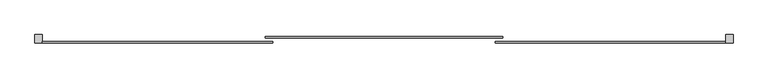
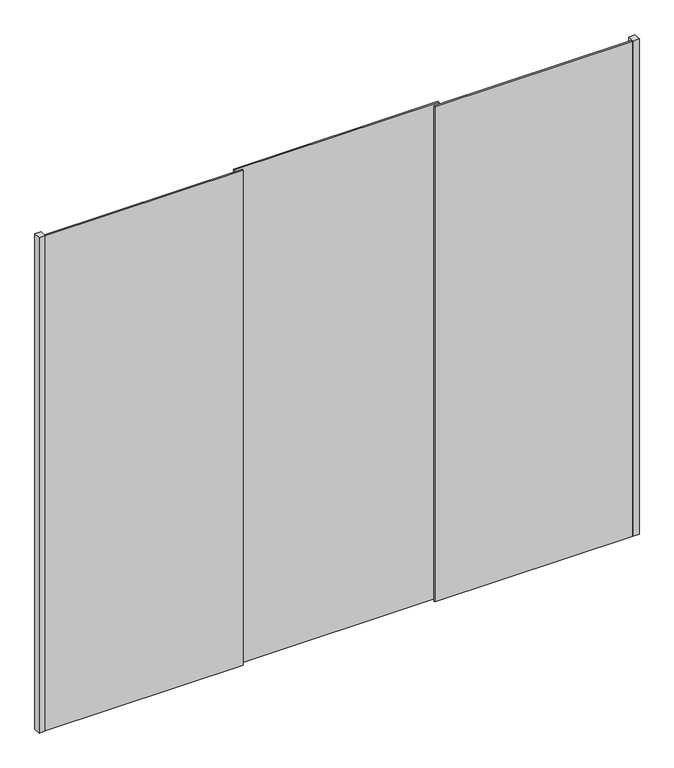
"""IFC4 building model written with IfcOpenShell, lengths in millimetres: furniture geometry, Puerta Closet corre 3 hojas : Puerta corrdiza 3 hojas PCL-01."""

from ifc_helpers import new_model, si_unit, origin, origin_with_axes, place, context, project, spatial, polyline, outline, extrude, source, transform, mapped, element, save


def furniture_091fd89b(model_context):
    return source(origin(), model_context, "Body", "SweptSolid", [
        extrude(outline(polyline([(1520.0, 86.6666667), (1490.0, 86.6666667), (1490.0, 120.0), (1520.0, 120.0), (1520.0, 86.6666667)])), origin_with_axes(), (0.0, 0.0, 1.0), 2450.0),
        extrude(outline(polyline([(1490.0, 86.6666667), (563.3333333, 86.6666667), (563.3333333, 93.3333333), (1490.0, 93.3333333), (1490.0, 86.6666667)])), origin_with_axes(), (0.0, 0.0, 1.0), 2450.0),
        extrude(outline(polyline([(593.3333333, 106.6666667), (-363.3333333, 106.6666667), (-363.3333333, 113.3333333), (593.3333333, 113.3333333), (593.3333333, 106.6666667)])), origin_with_axes(), (0.0, 0.0, 1.0), 2450.0),
        extrude(outline(polyline([(-333.3333333, 86.6666667), (-1260.0, 86.6666667), (-1260.0, 93.3333333), (-333.3333333, 93.3333333), (-333.3333333, 86.6666667)])), origin_with_axes(), (0.0, 0.0, 1.0), 2450.0),
        extrude(outline(polyline([(-1290.0, 86.6666667), (-1290.0, 120.0), (-1260.0, 120.0), (-1260.0, 86.6666667), (-1290.0, 86.6666667)])), origin_with_axes(), (0.0, 0.0, 1.0), 2450.0),
    ])


if __name__ == "__main__":
    model = new_model("IFC4")
    model_context = context("Model", 3, world=origin())
    ifc_project = project(units=[si_unit("LENGTHUNIT", "METRE", prefix="MILLI")], contexts=[model_context])
    site = spatial("IfcSite", under=ifc_project)
    building = spatial("IfcBuilding", under=site)
    placement = place(None, origin())
    furniture_shape = furniture_091fd89b(model_context)
    element("IfcFurniture", 1, ObjectType="Puerta Closet corre 3 hojas : Puerta corrdiza 3 hojas PCL-01", at=placement, inside=building, context=model_context, shape_type="MappedRepresentation", body=[
        mapped(furniture_shape, transform((0.0, 0.0, 0.0), x_axis=(1.0, 0.0, 0.0), y_axis=(0.0, 1.0, 0.0), z_axis=(0.0, 0.0, 1.0))),
    ])
    save(model, "model.ifc")
